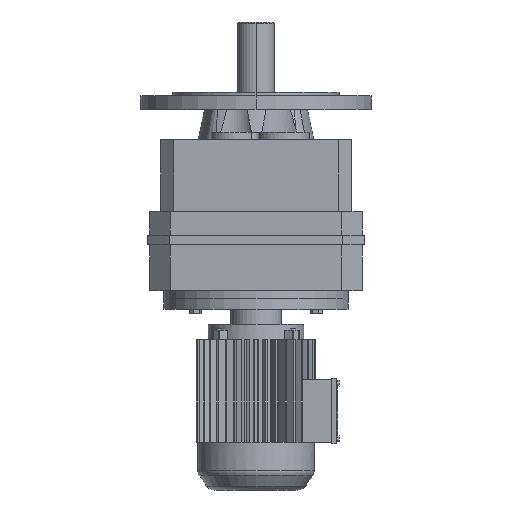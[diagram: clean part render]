
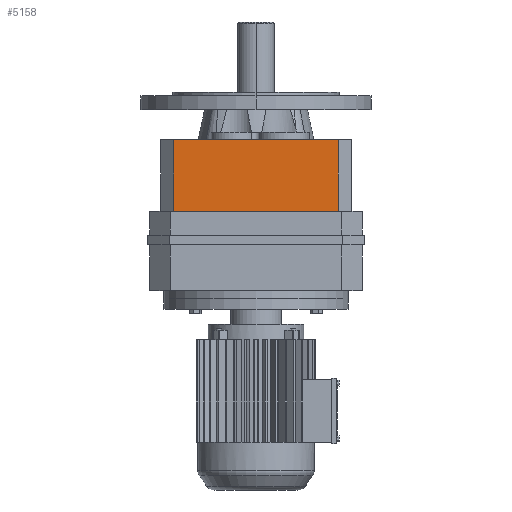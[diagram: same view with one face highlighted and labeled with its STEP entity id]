
A CAD part, front view. The second image highlights one B-rep face of the part: STEP entity #5158.
In plain terms, the highlighted planar face has unit normal (0, -1, 0).
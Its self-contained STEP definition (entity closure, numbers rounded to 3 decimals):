
#785 = PLANE('',#786);
#786 = AXIS2_PLACEMENT_3D('',#787,#788,#789);
#787 = CARTESIAN_POINT('',(101.33,-75.463,94.875));
#788 = DIRECTION('',(0.,0.,1.));
#789 = DIRECTION('',(1.,0.,0.));
#840 = PLANE('',#841);
#841 = AXIS2_PLACEMENT_3D('',#842,#843,#844);
#842 = CARTESIAN_POINT('',(-180.548,-12.1,172.5));
#843 = DIRECTION('',(0.,0.,1.));
#844 = DIRECTION('',(1.,0.,0.));
#2108 = VERTEX_POINT('',#2109);
#2109 = CARTESIAN_POINT('',(89.3,-98.,94.875));
#2123 = PLANE('',#2124);
#2124 = AXIS2_PLACEMENT_3D('',#2125,#2126,#2127);
#2125 = CARTESIAN_POINT('',(89.3,-98.,94.875));
#2126 = DIRECTION('',(-0.707,0.707,0.));
#2127 = DIRECTION('',(-0.707,-0.707,0.));
#2135 = EDGE_CURVE('',#2108,#2136,#2138,.T.);
#2136 = VERTEX_POINT('',#2137);
#2137 = CARTESIAN_POINT('',(-89.3,-98.,94.875));
#2138 = SURFACE_CURVE('',#2139,(#2143,#2150),.PCURVE_S1.);
#2139 = LINE('',#2140,#2141);
#2140 = CARTESIAN_POINT('',(-89.3,-98.,94.875));
#2141 = VECTOR('',#2142,1.);
#2142 = DIRECTION('',(-1.,0.,0.));
#2143 = PCURVE('',#785,#2144);
#2144 = DEFINITIONAL_REPRESENTATION('',(#2145),#2149);
#2145 = LINE('',#2146,#2147);
#2146 = CARTESIAN_POINT('',(-190.63,-22.537));
#2147 = VECTOR('',#2148,1.);
#2148 = DIRECTION('',(-1.,0.));
#2149 = ( GEOMETRIC_REPRESENTATION_CONTEXT(2) 
PARAMETRIC_REPRESENTATION_CONTEXT() REPRESENTATION_CONTEXT('2D SPACE',''
  ) );
#2150 = PCURVE('',#2151,#2156);
#2151 = PLANE('',#2152);
#2152 = AXIS2_PLACEMENT_3D('',#2153,#2154,#2155);
#2153 = CARTESIAN_POINT('',(-89.3,-98.,94.875));
#2154 = DIRECTION('',(0.,1.,0.));
#2155 = DIRECTION('',(0.,0.,1.));
#2156 = DEFINITIONAL_REPRESENTATION('',(#2157),#2161);
#2157 = LINE('',#2158,#2159);
#2158 = CARTESIAN_POINT('',(0.,0.));
#2159 = VECTOR('',#2160,1.);
#2160 = DIRECTION('',(0.,-1.));
#2161 = ( GEOMETRIC_REPRESENTATION_CONTEXT(2) 
PARAMETRIC_REPRESENTATION_CONTEXT() REPRESENTATION_CONTEXT('2D SPACE',''
  ) );
#2179 = PLANE('',#2180);
#2180 = AXIS2_PLACEMENT_3D('',#2181,#2182,#2183);
#2181 = CARTESIAN_POINT('',(-89.3,-98.,94.875));
#2182 = DIRECTION('',(0.707,0.707,0.));
#2183 = DIRECTION('',(-0.707,0.707,0.));
#4554 = VERTEX_POINT('',#4555);
#4555 = CARTESIAN_POINT('',(-89.3,-98.,172.5));
#4576 = EDGE_CURVE('',#4577,#4554,#4579,.T.);
#4577 = VERTEX_POINT('',#4578);
#4578 = CARTESIAN_POINT('',(89.3,-98.,172.5));
#4579 = SURFACE_CURVE('',#4580,(#4584,#4591),.PCURVE_S1.);
#4580 = LINE('',#4581,#4582);
#4581 = CARTESIAN_POINT('',(-89.3,-98.,172.5));
#4582 = VECTOR('',#4583,1.);
#4583 = DIRECTION('',(-1.,0.,0.));
#4584 = PCURVE('',#840,#4585);
#4585 = DEFINITIONAL_REPRESENTATION('',(#4586),#4590);
#4586 = LINE('',#4587,#4588);
#4587 = CARTESIAN_POINT('',(91.248,-85.9));
#4588 = VECTOR('',#4589,1.);
#4589 = DIRECTION('',(-1.,0.));
#4590 = ( GEOMETRIC_REPRESENTATION_CONTEXT(2) 
PARAMETRIC_REPRESENTATION_CONTEXT() REPRESENTATION_CONTEXT('2D SPACE',''
  ) );
#4591 = PCURVE('',#2151,#4592);
#4592 = DEFINITIONAL_REPRESENTATION('',(#4593),#4597);
#4593 = LINE('',#4594,#4595);
#4594 = CARTESIAN_POINT('',(77.625,0.));
#4595 = VECTOR('',#4596,1.);
#4596 = DIRECTION('',(0.,-1.));
#4597 = ( GEOMETRIC_REPRESENTATION_CONTEXT(2) 
PARAMETRIC_REPRESENTATION_CONTEXT() REPRESENTATION_CONTEXT('2D SPACE',''
  ) );
#5158 = ADVANCED_FACE('',(#5159),#2151,.F.);
#5159 = FACE_BOUND('',#5160,.T.);
#5160 = EDGE_LOOP('',(#5161,#5162,#5183,#5184));
#5161 = ORIENTED_EDGE('',*,*,#4576,.T.);
#5162 = ORIENTED_EDGE('',*,*,#5163,.F.);
#5163 = EDGE_CURVE('',#2136,#4554,#5164,.T.);
#5164 = SURFACE_CURVE('',#5165,(#5169,#5176),.PCURVE_S1.);
#5165 = LINE('',#5166,#5167);
#5166 = CARTESIAN_POINT('',(-89.3,-98.,94.875));
#5167 = VECTOR('',#5168,1.);
#5168 = DIRECTION('',(0.,0.,1.));
#5169 = PCURVE('',#2151,#5170);
#5170 = DEFINITIONAL_REPRESENTATION('',(#5171),#5175);
#5171 = LINE('',#5172,#5173);
#5172 = CARTESIAN_POINT('',(0.,0.));
#5173 = VECTOR('',#5174,1.);
#5174 = DIRECTION('',(1.,0.));
#5175 = ( GEOMETRIC_REPRESENTATION_CONTEXT(2) 
PARAMETRIC_REPRESENTATION_CONTEXT() REPRESENTATION_CONTEXT('2D SPACE',''
  ) );
#5176 = PCURVE('',#2179,#5177);
#5177 = DEFINITIONAL_REPRESENTATION('',(#5178),#5182);
#5178 = LINE('',#5179,#5180);
#5179 = CARTESIAN_POINT('',(0.,0.));
#5180 = VECTOR('',#5181,1.);
#5181 = DIRECTION('',(0.,1.));
#5182 = ( GEOMETRIC_REPRESENTATION_CONTEXT(2) 
PARAMETRIC_REPRESENTATION_CONTEXT() REPRESENTATION_CONTEXT('2D SPACE',''
  ) );
#5183 = ORIENTED_EDGE('',*,*,#2135,.F.);
#5184 = ORIENTED_EDGE('',*,*,#5185,.T.);
#5185 = EDGE_CURVE('',#2108,#4577,#5186,.T.);
#5186 = SURFACE_CURVE('',#5187,(#5191,#5198),.PCURVE_S1.);
#5187 = LINE('',#5188,#5189);
#5188 = CARTESIAN_POINT('',(89.3,-98.,94.875));
#5189 = VECTOR('',#5190,1.);
#5190 = DIRECTION('',(0.,0.,1.));
#5191 = PCURVE('',#2151,#5192);
#5192 = DEFINITIONAL_REPRESENTATION('',(#5193),#5197);
#5193 = LINE('',#5194,#5195);
#5194 = CARTESIAN_POINT('',(0.,178.6));
#5195 = VECTOR('',#5196,1.);
#5196 = DIRECTION('',(1.,0.));
#5197 = ( GEOMETRIC_REPRESENTATION_CONTEXT(2) 
PARAMETRIC_REPRESENTATION_CONTEXT() REPRESENTATION_CONTEXT('2D SPACE',''
  ) );
#5198 = PCURVE('',#2123,#5199);
#5199 = DEFINITIONAL_REPRESENTATION('',(#5200),#5204);
#5200 = LINE('',#5201,#5202);
#5201 = CARTESIAN_POINT('',(0.,0.));
#5202 = VECTOR('',#5203,1.);
#5203 = DIRECTION('',(0.,1.));
#5204 = ( GEOMETRIC_REPRESENTATION_CONTEXT(2) 
PARAMETRIC_REPRESENTATION_CONTEXT() REPRESENTATION_CONTEXT('2D SPACE',''
  ) );
